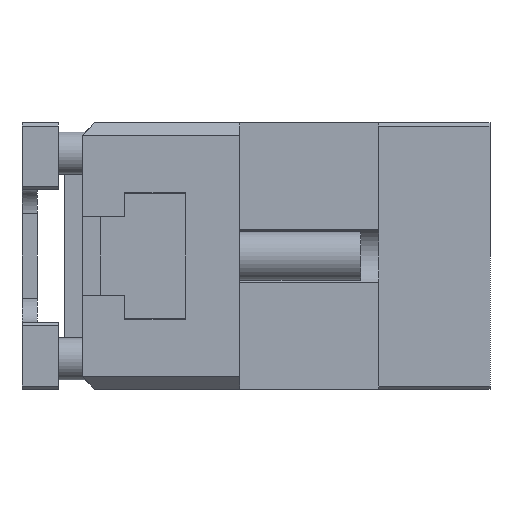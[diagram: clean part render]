
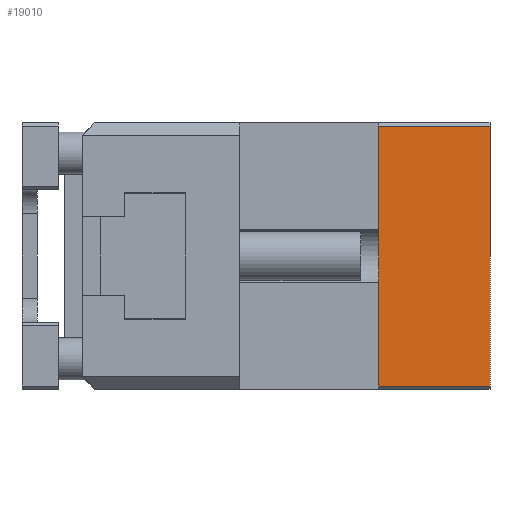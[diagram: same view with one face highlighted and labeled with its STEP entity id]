
A CAD part, left-side view. The second image highlights one B-rep face of the part: STEP entity #19010.
In plain terms, the highlighted planar face has unit normal (-1, 0, 0).
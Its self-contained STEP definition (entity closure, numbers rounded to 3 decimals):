
#705 = CARTESIAN_POINT ( 'NONE',  ( -22.5, 0., -44. ) ) ;
#850 = PLANE ( 'NONE',  #41884 ) ;
#981 = ORIENTED_EDGE ( 'NONE', *, *, #17422, .F. ) ;
#3024 = VECTOR ( 'NONE', #17038, 1000. ) ;
#5646 = ORIENTED_EDGE ( 'NONE', *, *, #33181, .F. ) ;
#7295 = CARTESIAN_POINT ( 'NONE',  ( -22.5, 23.4, -21.5 ) ) ;
#8850 = CARTESIAN_POINT ( 'NONE',  ( -22.5, 23.4, 21.5 ) ) ;
#9486 = LINE ( 'NONE', #7295, #18819 ) ;
#10001 = EDGE_LOOP ( 'NONE', ( #981, #20328, #21682, #5646 ) ) ;
#10650 = VERTEX_POINT ( 'NONE', #12921 ) ;
#10950 = DIRECTION ( 'NONE',  ( 0., 0., 1. ) ) ;
#12921 = CARTESIAN_POINT ( 'NONE',  ( -22.5, 23.4, -21.5 ) ) ;
#14406 = VERTEX_POINT ( 'NONE', #44180 ) ;
#17038 = DIRECTION ( 'NONE',  ( 0., 0., -1. ) ) ;
#17422 = EDGE_CURVE ( 'NONE', #50129, #40086, #33715, .T. ) ;
#18819 = VECTOR ( 'NONE', #31087, 1000. ) ;
#19010 = ADVANCED_FACE ( 'NONE', ( #46139 ), #850, .F. ) ;
#20221 = EDGE_CURVE ( 'NONE', #10650, #50129, #26720, .T. ) ;
#20328 = ORIENTED_EDGE ( 'NONE', *, *, #20221, .F. ) ;
#20844 = DIRECTION ( 'NONE',  ( 0., 0., -1. ) ) ;
#21682 = ORIENTED_EDGE ( 'NONE', *, *, #46142, .F. ) ;
#23150 = VECTOR ( 'NONE', #47491, 1000. ) ;
#23366 = CARTESIAN_POINT ( 'NONE',  ( -22.5, 0., 21.5 ) ) ;
#25469 = VECTOR ( 'NONE', #10950, 1000. ) ;
#26720 = LINE ( 'NONE', #38810, #25469 ) ;
#31087 = DIRECTION ( 'NONE',  ( 0., 1., 0. ) ) ;
#32221 = LINE ( 'NONE', #705, #3024 ) ;
#32631 = CARTESIAN_POINT ( 'NONE',  ( -22.5, 23.4, 21.5 ) ) ;
#33181 = EDGE_CURVE ( 'NONE', #40086, #14406, #32221, .T. ) ;
#33715 = LINE ( 'NONE', #51166, #23150 ) ;
#38810 = CARTESIAN_POINT ( 'NONE',  ( -22.5, 23.4, 21.5 ) ) ;
#40086 = VERTEX_POINT ( 'NONE', #23366 ) ;
#41884 = AXIS2_PLACEMENT_3D ( 'NONE', #8850, #44693, #20844 ) ;
#44180 = CARTESIAN_POINT ( 'NONE',  ( -22.5, 0., -21.5 ) ) ;
#44693 = DIRECTION ( 'NONE',  ( 1., 0., 0. ) ) ;
#46139 = FACE_OUTER_BOUND ( 'NONE', #10001, .T. ) ;
#46142 = EDGE_CURVE ( 'NONE', #14406, #10650, #9486, .T. ) ;
#47491 = DIRECTION ( 'NONE',  ( 0., -1., 0. ) ) ;
#50129 = VERTEX_POINT ( 'NONE', #32631 ) ;
#51166 = CARTESIAN_POINT ( 'NONE',  ( -22.5, 23.4, 21.5 ) ) ;
